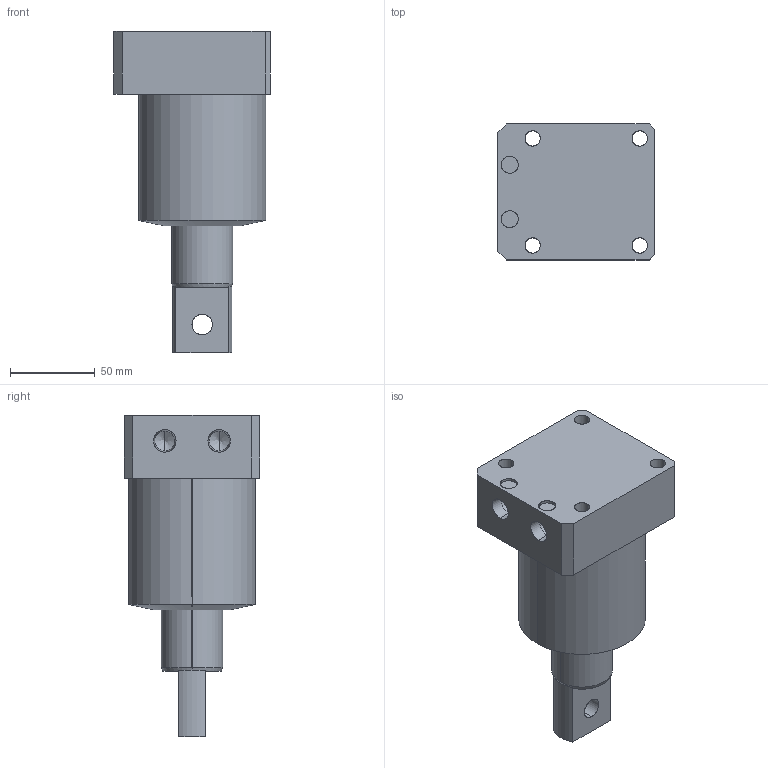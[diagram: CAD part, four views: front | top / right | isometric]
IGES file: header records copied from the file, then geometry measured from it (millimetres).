
Start section: SolidWorks IGES file using analytic representation for surfaces
Global section: file name: E:\ALL SSVT IGS MODEL\ALL-SWING-IGS\SWING-75\SB03-751-752-RH-LH-BM-PTYPE\SB03-751-RP-BM-PTYPE.IGS; native system: SolidWorks 2019; preprocessor: SolidWorks 2019; author: SSVT; date: 210823.122439; units: millimetre
Bounding box: 92 x 80 x 189 mm (x, y, z)
Surface area: 75318.9 mm2 (no closed solid volume)
Topology: 0 solids, 0 shells, 59 faces, 1109 edges, 1105 vertices
Faces by surface type: revolution 39, bspline 20
